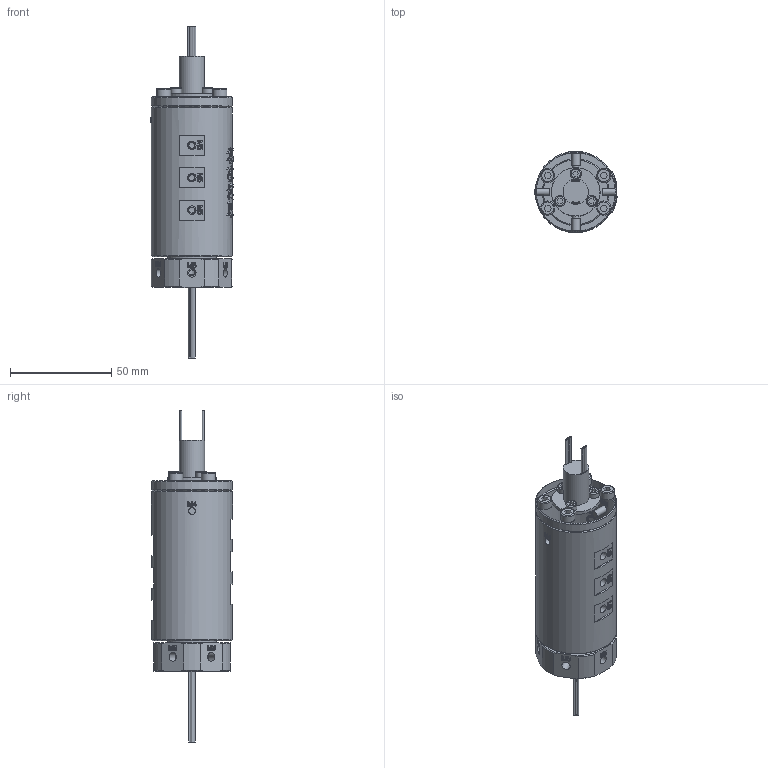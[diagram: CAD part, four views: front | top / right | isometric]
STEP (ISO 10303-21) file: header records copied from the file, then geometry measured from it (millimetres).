
FILE_DESCRIPTION(/* description */ (''),/* implementation_level */ '2;1');
FILE_NAME(/* name */ 'HQ06005-08M.stp',/* time_stamp */ '2025-09-01T15:56:47+08:00',/* author */ (''),/* organization */ (''),/* preprocessor_version */ 'ST-DEVELOPER v16.7',/* originating_system */ 'SIEMENS PLM Software NX 12.0',/* authorisation */ '');
FILE_SCHEMA (('AUTOMOTIVE_DESIGN { 1 0 10303 214 3 1 1 1 }'));
Products named in the file (1): AdmiB44865CDwd7g
Bounding box: 40.6 x 40 x 163.9 mm (x, y, z)
Volume: 117418.1 mm3; surface area: 22709.8 mm2
Topology: 1 solids, 9 shells, 1409 faces, 3776 edges, 2514 vertices
Faces by surface type: plane 680, extrusion 521, cylinder 114, bspline 58, cone 29, torus 7
Full cylindrical faces by diameter (mm): 0.8 x16, 3 x15, 3.4 x9, 4 x10, 4.1 x6, 4.2 x18, 5 x1, 5.5 x3, 6 x1, 7 x4, 12.4 x1, 23.9 x1, 24 x1, 32 x1, 40 x2
Entity records: 51407 total; most frequent: CARTESIAN_POINT 21255, ORIENTED_EDGE 7196, DIRECTION 3887, EDGE_CURVE 3598, B_SPLINE_CURVE_WITH_KNOTS 2814, VERTEX_POINT 2455, EDGE_LOOP 1681, VECTOR 1427
